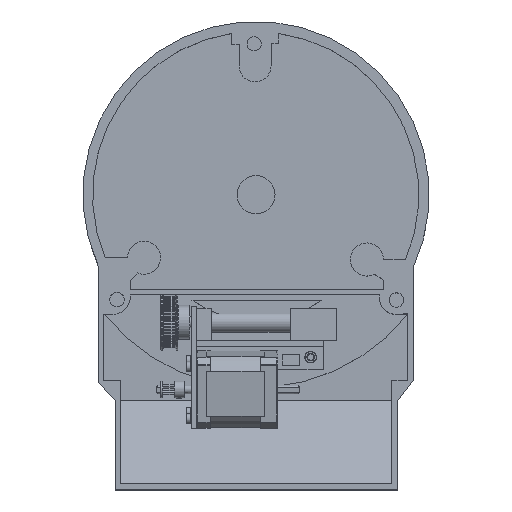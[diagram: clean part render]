
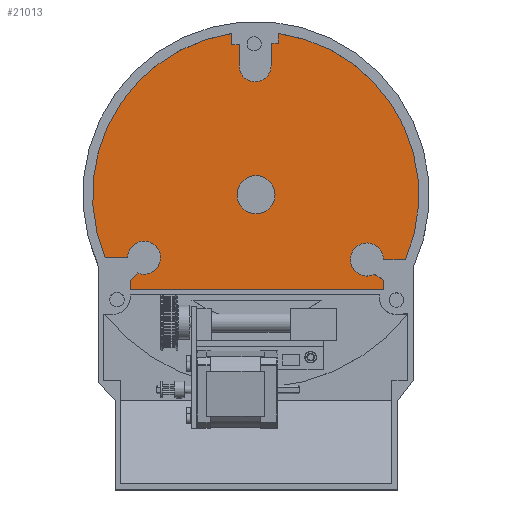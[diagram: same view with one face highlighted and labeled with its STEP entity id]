
A CAD part, top view. The second image highlights one B-rep face of the part: STEP entity #21013.
In plain terms, the highlighted planar face has unit normal (0, 0, 1).
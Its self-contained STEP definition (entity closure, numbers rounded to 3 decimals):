
#666=CIRCLE('',#24385,9.803);
#667=CIRCLE('',#24388,96.734);
#668=CIRCLE('',#24393,9.452);
#669=CIRCLE('',#24398,96.734);
#670=CIRCLE('',#24401,9.785);
#671=CIRCLE('',#24404,11.264);
#2509=ORIENTED_EDGE('',*,*,#8856,.F.);
#2510=ORIENTED_EDGE('',*,*,#8822,.T.);
#2511=ORIENTED_EDGE('',*,*,#8857,.T.);
#2512=ORIENTED_EDGE('',*,*,#8825,.T.);
#2513=ORIENTED_EDGE('',*,*,#8828,.T.);
#2514=ORIENTED_EDGE('',*,*,#8830,.T.);
#2515=ORIENTED_EDGE('',*,*,#8832,.T.);
#2516=ORIENTED_EDGE('',*,*,#8834,.T.);
#2517=ORIENTED_EDGE('',*,*,#8836,.T.);
#2518=ORIENTED_EDGE('',*,*,#8838,.T.);
#2519=ORIENTED_EDGE('',*,*,#8840,.T.);
#2520=ORIENTED_EDGE('',*,*,#8842,.T.);
#2521=ORIENTED_EDGE('',*,*,#8844,.T.);
#2522=ORIENTED_EDGE('',*,*,#8846,.T.);
#2523=ORIENTED_EDGE('',*,*,#8848,.T.);
#2524=ORIENTED_EDGE('',*,*,#8850,.T.);
#2525=ORIENTED_EDGE('',*,*,#8852,.T.);
#2526=ORIENTED_EDGE('',*,*,#8854,.T.);
#2527=ORIENTED_EDGE('',*,*,#8855,.T.);
#8822=EDGE_CURVE('',#12009,#12008,#14263,.T.);
#8825=EDGE_CURVE('',#12011,#12010,#14266,.T.);
#8828=EDGE_CURVE('',#12010,#12012,#14269,.T.);
#8830=EDGE_CURVE('',#12012,#12013,#666,.T.);
#8832=EDGE_CURVE('',#12013,#12014,#14272,.T.);
#8834=EDGE_CURVE('',#12014,#12015,#667,.T.);
#8836=EDGE_CURVE('',#12015,#12016,#14275,.T.);
#8838=EDGE_CURVE('',#12016,#12017,#14277,.T.);
#8840=EDGE_CURVE('',#12017,#12018,#14279,.T.);
#8842=EDGE_CURVE('',#12018,#12019,#668,.T.);
#8844=EDGE_CURVE('',#12019,#12020,#14282,.T.);
#8846=EDGE_CURVE('',#12020,#12021,#14284,.T.);
#8848=EDGE_CURVE('',#12021,#12022,#14286,.T.);
#8850=EDGE_CURVE('',#12022,#12023,#669,.T.);
#8852=EDGE_CURVE('',#12023,#12024,#14289,.T.);
#8854=EDGE_CURVE('',#12024,#12025,#670,.T.);
#8855=EDGE_CURVE('',#12025,#12009,#14291,.T.);
#8856=EDGE_CURVE('',#12026,#12026,#671,.F.);
#8857=EDGE_CURVE('',#12008,#12011,#14292,.T.);
#12008=VERTEX_POINT('',#33387);
#12009=VERTEX_POINT('',#33389);
#12010=VERTEX_POINT('',#33393);
#12011=VERTEX_POINT('',#33395);
#12012=VERTEX_POINT('',#33399);
#12013=VERTEX_POINT('',#33403);
#12014=VERTEX_POINT('',#33407);
#12015=VERTEX_POINT('',#33411);
#12016=VERTEX_POINT('',#33415);
#12017=VERTEX_POINT('',#33419);
#12018=VERTEX_POINT('',#33423);
#12019=VERTEX_POINT('',#33427);
#12020=VERTEX_POINT('',#33431);
#12021=VERTEX_POINT('',#33435);
#12022=VERTEX_POINT('',#33439);
#12023=VERTEX_POINT('',#33443);
#12024=VERTEX_POINT('',#33447);
#12025=VERTEX_POINT('',#33451);
#12026=VERTEX_POINT('',#33457);
#14263=LINE('',#33388,#15915);
#14266=LINE('',#33394,#15918);
#14269=LINE('',#33400,#15921);
#14272=LINE('',#33408,#15924);
#14275=LINE('',#33416,#15927);
#14277=LINE('',#33420,#15929);
#14279=LINE('',#33424,#15931);
#14282=LINE('',#33432,#15934);
#14284=LINE('',#33436,#15936);
#14286=LINE('',#33440,#15938);
#14289=LINE('',#33448,#15941);
#14291=LINE('',#33454,#15943);
#14292=LINE('',#33458,#15944);
#15915=VECTOR('',#26879,1000.);
#15918=VECTOR('',#26884,1000.);
#15921=VECTOR('',#26889,1000.);
#15924=VECTOR('',#26898,1000.);
#15927=VECTOR('',#26907,1000.);
#15929=VECTOR('',#26911,1000.);
#15931=VECTOR('',#26915,1000.);
#15934=VECTOR('',#26924,1000.);
#15936=VECTOR('',#26928,1000.);
#15938=VECTOR('',#26932,1000.);
#15941=VECTOR('',#26941,1000.);
#15943=VECTOR('',#26949,1000.);
#15944=VECTOR('',#26954,1000.);
#17547=EDGE_LOOP('',(#2509));
#17548=EDGE_LOOP('',(#2510,#2511,#2512,#2513,#2514,#2515,#2516,#2517,#2518,
#2519,#2520,#2521,#2522,#2523,#2524,#2525,#2526,#2527));
#19020=FACE_BOUND('',#17547,.T.);
#19021=FACE_BOUND('',#17548,.T.);
#20490=PLANE('',#24403);
#21013=ADVANCED_FACE('',(#19020,#19021),#20490,.F.);
#24385=AXIS2_PLACEMENT_3D('',#33404,#26893,#26894);
#24388=AXIS2_PLACEMENT_3D('',#33412,#26902,#26903);
#24393=AXIS2_PLACEMENT_3D('',#33428,#26919,#26920);
#24398=AXIS2_PLACEMENT_3D('',#33444,#26936,#26937);
#24401=AXIS2_PLACEMENT_3D('',#33452,#26945,#26946);
#24403=AXIS2_PLACEMENT_3D('',#33455,#26950,#26951);
#24404=AXIS2_PLACEMENT_3D('',#33456,#26952,#26953);
#26879=DIRECTION('',(0.,-1.,0.));
#26884=DIRECTION('',(0.,1.,0.));
#26889=DIRECTION('',(-0.832,0.555,0.));
#26893=DIRECTION('',(0.,0.,-1.));
#26894=DIRECTION('',(1.,0.,0.));
#26898=DIRECTION('',(1.,0.,0.));
#26902=DIRECTION('',(0.,0.,1.));
#26903=DIRECTION('',(-1.,0.,0.));
#26907=DIRECTION('',(0.,-1.,0.));
#26911=DIRECTION('',(-1.,0.,0.));
#26915=DIRECTION('',(-0.027,-1.,0.));
#26919=DIRECTION('',(0.,0.,-1.));
#26920=DIRECTION('',(1.,0.,0.));
#26924=DIRECTION('',(-0.003,1.,0.));
#26928=DIRECTION('',(-1.,0.,0.));
#26932=DIRECTION('',(0.,1.,0.));
#26936=DIRECTION('',(0.,0.,1.));
#26937=DIRECTION('',(1.,0.,0.));
#26941=DIRECTION('',(1.,0.,0.));
#26945=DIRECTION('',(0.,0.,-1.));
#26946=DIRECTION('',(-1.,0.,0.));
#26949=DIRECTION('',(-0.68,-0.733,0.));
#26950=DIRECTION('',(0.,0.,-1.));
#26951=DIRECTION('',(-1.,0.,0.));
#26952=DIRECTION('',(0.,0.,-1.));
#26953=DIRECTION('',(-1.,0.,0.));
#26954=DIRECTION('',(1.,0.,0.));
#33387=CARTESIAN_POINT('',(47.723,157.905,-19.05));
#33388=CARTESIAN_POINT('',(47.723,163.028,-19.05));
#33389=CARTESIAN_POINT('',(47.723,163.028,-19.05));
#33393=CARTESIAN_POINT('',(197.879,163.349,-19.05));
#33394=CARTESIAN_POINT('',(197.879,163.349,-19.05));
#33395=CARTESIAN_POINT('',(197.879,157.905,-19.05));
#33399=CARTESIAN_POINT('',(192.551,166.903,-19.05));
#33400=CARTESIAN_POINT('',(192.551,166.903,-19.05));
#33403=CARTESIAN_POINT('',(197.879,175.625,-19.05));
#33404=CARTESIAN_POINT('',(188.076,175.625,-19.05));
#33407=CARTESIAN_POINT('',(210.916,175.625,-19.05));
#33408=CARTESIAN_POINT('',(197.879,175.625,-19.05));
#33411=CARTESIAN_POINT('',(135.526,309.711,-19.05));
#33412=CARTESIAN_POINT('',(122.083,213.916,-19.05));
#33415=CARTESIAN_POINT('',(135.526,303.795,-19.05));
#33416=CARTESIAN_POINT('',(135.526,303.795,-19.05));
#33419=CARTESIAN_POINT('',(131.524,303.795,-19.05));
#33420=CARTESIAN_POINT('',(135.526,303.795,-19.05));
#33423=CARTESIAN_POINT('',(131.165,290.413,-19.05));
#33424=CARTESIAN_POINT('',(131.524,303.795,-19.05));
#33427=CARTESIAN_POINT('',(112.26,290.413,-19.05));
#33428=CARTESIAN_POINT('',(121.713,290.413,-19.05));
#33431=CARTESIAN_POINT('',(112.222,303.088,-19.05));
#33432=CARTESIAN_POINT('',(112.222,303.088,-19.05));
#33435=CARTESIAN_POINT('',(107.985,303.088,-19.05));
#33436=CARTESIAN_POINT('',(107.985,303.088,-19.05));
#33439=CARTESIAN_POINT('',(107.985,309.617,-19.05));
#33440=CARTESIAN_POINT('',(107.985,303.088,-19.05));
#33443=CARTESIAN_POINT('',(32.807,176.673,-19.05));
#33444=CARTESIAN_POINT('',(122.083,213.916,-19.05));
#33447=CARTESIAN_POINT('',(46.077,176.673,-19.05));
#33448=CARTESIAN_POINT('',(46.077,176.673,-19.05));
#33451=CARTESIAN_POINT('',(52.032,167.669,-19.05));
#33452=CARTESIAN_POINT('',(55.862,176.673,-19.05));
#33454=CARTESIAN_POINT('',(52.032,167.669,-19.05));
#33455=CARTESIAN_POINT('',(188.076,175.625,-19.05));
#33456=CARTESIAN_POINT('',(122.288,214.104,-19.05));
#33457=CARTESIAN_POINT('',(111.023,214.104,-19.05));
#33458=CARTESIAN_POINT('',(47.723,157.905,-19.05));
